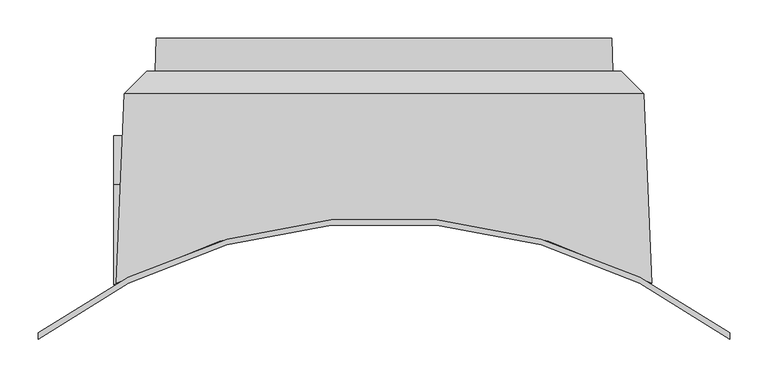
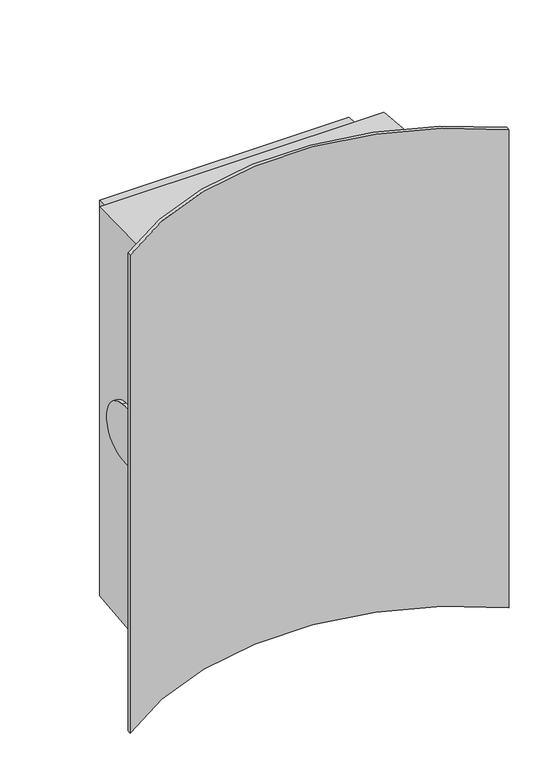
"""IFC4 building model written with IfcOpenShell, lengths in millimetres: proxy geometry, SU.MRADAPTOR.1500.600Lx900W."""

from ifc_helpers import new_model, si_unit, frame, origin, place, context, project, spatial, polyline, circle_curve, ellipse_curve, source, transform, mapped, element, save
from ifc_brep_helpers import plane_surface, cylinder_surface, revolved_surface, advanced_brep


def generic_models_b29504b8(model_context):
    return source(origin(), model_context, "Body", "AdvancedBrep", [
        advanced_brep(
        [(296.4984069, 250.0, -446.4984069), (-296.4984069, 250.0, -446.4984069), (-296.4984069, 250.0, 446.4984069), (296.4984069, 250.0, 446.4984069), (298.0, 207.0, -448.0), (-298.0, 207.0, -448.0), (-298.0, 207.0, 448.0), (298.0, 207.0, 448.0), (-450.0, -133.0, 600.0), (450.0, -133.0, 600.0), (450.0, -133.0, -600.0), (-450.0, -133.0, -600.0), (-348.5155988, -68.8939261, -80.0313752), (-348.5155988, -68.8939261, -498.5155988), (348.5155988, -68.8939261, -498.5155988), (348.5155988, -68.8939261, 498.5155988), (-348.5155988, -68.8939261, 498.5155988), (-348.5155988, -68.8939261, 80.0313752), (-352.0, -70.7341923, 80.1785965), (-352.0, -70.7341923, -80.1785965), (-338.1192031, 178.0204704, -488.1192031), (338.1192031, 178.0204704, -488.1192031), (-343.1185957, 59.2848957, -69.7770695), (-343.1185957, 59.2848957, 69.7770695), (-338.1192031, 178.0204704, 488.1192031), (-309.1396735, 207.0, -459.1396735), (309.1396735, 207.0, -459.1396735), (338.1192031, 178.0204704, 488.1192031), (-309.1396735, 207.0, 459.1396735), (309.1396735, 207.0, 459.1396735), (-352.0, 59.2848957, 69.7770695), (-450.0, -141.7733091, -600.0), (-450.0, -141.7733091, 600.0), (450.0, -141.7733091, -600.0), (450.0, -141.7733091, 600.0), (-352.0, 59.2848957, -69.7770695)],
        [
            (0, 1),
            (1, 2),
            (2, 3),
            (3, 0),
            (0, 4),
            (4, 5),
            (5, 1),
            (5, 6),
            (6, 2),
            (3, 7),
            (7, 4),
            (6, 7),
            (8, 9, circle_curve(frame((0.0, -733.0, 600.0), z_axis=(0.0, 0.0, -1.0), x_axis=(0.5999999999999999, 0.8, 0.0)), 750.0)),
            (9, 10),
            (10, 11, circle_curve(frame((0.0, -733.0, -600.0), z_axis=(0.0, 0.0, 1.0), x_axis=(0.5999999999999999, 0.8, 0.0)), 750.0)),
            (11, 8),
            (12, 13),
            (13, 14, ellipse_curve(frame((0.0, -733.0, -526.4779598), z_axis=(0.0, 0.04206798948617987, -0.9991147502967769), x_axis=(0.0, 0.9991147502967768, 0.042067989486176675)), 750.6645255, 750.0)),
            (14, 15),
            (15, 16, ellipse_curve(frame((0.0, -733.0, 526.4779598), z_axis=(0.0, 0.04206798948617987, 0.9991147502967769), x_axis=(0.0, -0.9991147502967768, 0.042067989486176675)), 750.6645255, 750.0)),
            (16, 17),
            (17, 18, ellipse_curve(frame((0.0, -733.0, 133.1598612), z_axis=(0.0, 0.07974522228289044, 0.9968152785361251), x_axis=(0.0, -0.9968152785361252, 0.07974522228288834)), 752.3961722, 750.0)),
            (18, 19),
            (19, 12, ellipse_curve(frame((0.0, -733.0, -133.1598612), z_axis=(0.0, 0.07974522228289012, -0.9968152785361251), x_axis=(0.0, 0.9968152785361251, 0.07974522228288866)), 752.3961722, 750.0)),
            (13, 20),
            (20, 21),
            (21, 14),
            (12, 22),
            (22, 23, ellipse_curve(frame((-343.3536343, 53.7027301, 0.0), z_axis=(0.9991147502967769, -0.04206798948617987, 0.0), x_axis=(-0.042067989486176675, -0.9991147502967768, 0.0)), 70.0620224, 70.0)),
            (23, 17),
            (16, 24),
            (24, 20),
            (20, 25),
            (25, 26),
            (26, 21),
            (15, 27),
            (27, 24),
            (24, 28),
            (28, 25),
            (27, 21),
            (26, 29),
            (29, 27),
            (29, 28),
            (23, 30),
            (30, 18),
            (11, 31),
            (31, 32),
            (32, 8),
            (31, 33, circle_curve(frame((0.0, -733.0, -600.0), z_axis=(0.0, 0.0, -1.0), x_axis=(-0.6056527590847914, -0.7957290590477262, 0.0)), 743.0)),
            (33, 34),
            (34, 32, circle_curve(frame((0.0, -733.0, 600.0), z_axis=(0.0, 0.0, 1.0), x_axis=(-0.6056527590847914, -0.7957290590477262, 0.0)), 743.0)),
            (9, 34),
            (33, 10),
            (35, 19),
            (30, 35, circle_curve(frame((-352.0, 53.7027301, 0.0), z_axis=(-1.0, 0.0, 0.0), x_axis=(0.0, 0.07974522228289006, -0.996815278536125)), 70.0)),
            (22, 35),
        ],
        [
            plane_surface(frame((248.0, 250.0, -446.4984069), z_axis=(0.0, 1.0, 0.0), x_axis=(0.0, 0.0, 1.0))),
            plane_surface(frame((-248.0, 207.0, -448.0), z_axis=(0.0, 0.03489949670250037, -0.9993908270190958), x_axis=(0.0, 0.9993908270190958, 0.03489949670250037))),
            plane_surface(frame((-298.0, 207.0, 398.0), z_axis=(-0.9993908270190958, 0.03489949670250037, 0.0), x_axis=(0.03489949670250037, 0.9993908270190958, 0.0))),
            plane_surface(frame((298.0, 207.0, -398.0), z_axis=(0.9993908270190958, 0.03489949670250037, 0.0), x_axis=(-0.03489949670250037, 0.9993908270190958, 0.0))),
            plane_surface(frame((248.0, 207.0, 448.0), z_axis=(0.0, 0.03489949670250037, 0.9993908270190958), x_axis=(0.0, 0.9993908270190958, -0.03489949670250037))),
            cylinder_surface(frame((0.0, -733.0, 0.0), z_axis=(0.0, 0.0, 1.0), x_axis=(0.5999999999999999, 0.8, 0.0)), 750.0),
            plane_surface(frame((-248.0, -299.4172684, -508.2218447), z_axis=(0.0, 0.04206798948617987, -0.9991147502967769), x_axis=(0.0, 0.9991147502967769, 0.04206798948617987))),
            plane_surface(frame((-358.2218447, -299.4172684, 398.0), z_axis=(-0.9991147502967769, 0.04206798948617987, 0.0), x_axis=(0.04206798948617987, 0.9991147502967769, 0.0))),
            plane_surface(frame((-248.0, 178.0204704, -488.1192031), z_axis=(0.0, 0.7071067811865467, -0.7071067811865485), x_axis=(0.0, 0.7071067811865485, 0.7071067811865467))),
            plane_surface(frame((248.0, -299.4172684, 508.2218447), z_axis=(0.0, 0.04206798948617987, 0.9991147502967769), x_axis=(0.0, 0.9991147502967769, -0.04206798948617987))),
            plane_surface(frame((-338.1192031, 178.0204704, 398.0), z_axis=(-0.7071067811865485, 0.7071067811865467, 0.0), x_axis=(0.7071067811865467, 0.7071067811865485, 0.0))),
            plane_surface(frame((338.1192031, 178.0204704, -398.0), z_axis=(0.7071067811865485, 0.7071067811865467, 0.0), x_axis=(-0.7071067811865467, 0.7071067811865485, 0.0))),
            plane_surface(frame((358.2218447, -299.4172684, -398.0), z_axis=(0.9991147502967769, 0.04206798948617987, 0.0), x_axis=(-0.04206798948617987, 0.9991147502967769, 0.0))),
            plane_surface(frame((248.0, 178.0204704, 488.1192031), z_axis=(0.0, 0.7071067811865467, 0.7071067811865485), x_axis=(0.0, 0.7071067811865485, -0.7071067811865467))),
            plane_surface(frame((248.0, 207.0, -459.1396735), z_axis=(0.0, 1.0, 0.0), x_axis=(0.0, 0.0, 1.0))),
            plane_surface(frame((0.0, -187.3224207, 89.5056548), z_axis=(0.0, 0.07974522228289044, 0.9968152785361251), x_axis=(0.0, 0.9968152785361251, -0.07974522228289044))),
            plane_surface(frame((-450.0, -133.0, 0.0), z_axis=(-1.0, 0.0, 0.0), x_axis=(0.0, -1.0, 0.0))),
            revolved_surface(polyline([(-450.00000000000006, -1324.2266908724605, 600.0), (-450.00000000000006, -1324.2266908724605, -600.0)]), (0.0, -733.0, 0.0), (0.0, 0.0, 1.0)),
            plane_surface(frame((450.0, -141.7733091, 0.0), z_axis=(1.0, 0.0, 0.0), x_axis=(0.0, 1.0, 0.0))),
            plane_surface(frame((-352.0, -31.8098453, 0.0), z_axis=(-1.0, 0.0, 0.0), x_axis=(0.0, 0.0, -1.0))),
            cylinder_surface(frame((0.0, 53.7027301, 0.0), z_axis=(-0.9999999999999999, 0.0, 0.0), x_axis=(0.0, 0.07974522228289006, -0.996815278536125)), 70.0),
            plane_surface(frame((0.0, -62.3866546, 600.0), z_axis=(0.0, 0.0, 1.0), x_axis=(1.0, 0.0, 0.0))),
            plane_surface(frame((0.0, -62.3866546, -600.0), z_axis=(0.0, 0.0, -1.0), x_axis=(1.0, 0.0, 0.0))),
            plane_surface(frame((0.0, 59.2848957, -69.7770695), z_axis=(0.0, 0.07974522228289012, -0.9968152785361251), x_axis=(0.0, -0.9968152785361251, -0.07974522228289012))),
        ],
        [
            (0, [[1, 2, 3, 4]]),
            (1, [[-1, 5, 6, 7]]),
            (2, [[-7, 8, 9, -2]]),
            (3, [[-4, 10, 11, -5]]),
            (4, [[-3, -9, 12, -10]]),
            (5, [[13, 14, 15, 16], [17, 18, 19, 20, 21, 22, 23, 24]]),
            (6, [[25, 26, 27, -18]]),
            (7, [[-17, 28, 29, 30, -21, 31, 32, -25]]),
            (8, [[-26, 33, 34, 35]]),
            (9, [[-20, 36, 37, -31]]),
            (10, [[-32, 38, 39, -33]]),
            (11, [[40, -35, 41, 42]]),
            (12, [[-27, -40, -36, -19]]),
            (13, [[-37, -42, 43, -38]]),
            (14, [[-34, -39, -43, -41], [-6, -11, -12, -8]]),
            (15, [[-30, 44, 45, -22]]),
            (16, [[-16, 46, 47, 48]]),
            (17, [[-47, 49, 50, 51]]),
            (18, [[-14, 52, -50, 53]]),
            (19, [[54, -23, -45, 55]]),
            (20, [[-55, -44, -29, 56]]),
            (21, [[-48, -51, -52, -13]]),
            (22, [[-46, -15, -53, -49]]),
            (23, [[-28, -24, -54, -56]]),
        ],
    ),
    ])


if __name__ == "__main__":
    model = new_model("IFC4")
    model_context = context("Model", 3, world=origin())
    ifc_project = project(units=[si_unit("LENGTHUNIT", "METRE", prefix="MILLI")], contexts=[model_context])
    site = spatial("IfcSite", under=ifc_project)
    building = spatial("IfcBuilding", under=site)
    placement = place(None, origin())
    generic_models_shape = generic_models_b29504b8(model_context)
    element("IfcBuildingElementProxy", 1, Name="SU.MRADAPTOR.1500.600Lx900W", ObjectType="SU.MRADAPTOR.1500.600Lx900W", at=placement, inside=building, context=model_context, shape_type="MappedRepresentation", body=[
        mapped(generic_models_shape, transform((0.0, 0.0, 0.0), x_axis=(1.0, 0.0, 0.0), y_axis=(0.0, 1.0, 0.0), z_axis=(0.0, 0.0, 1.0))),
    ])
    save(model, "model.ifc")
